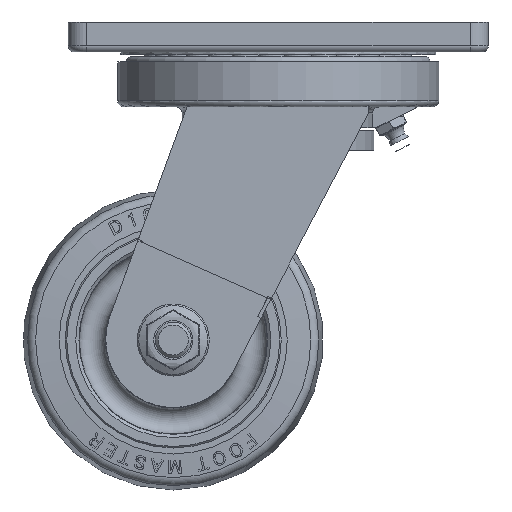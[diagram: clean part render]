
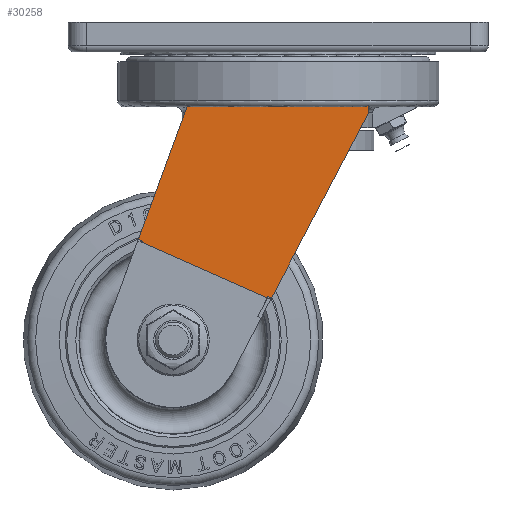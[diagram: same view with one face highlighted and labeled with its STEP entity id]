
A CAD part, front view. The second image highlights one B-rep face of the part: STEP entity #30258.
In plain terms, the highlighted planar face has unit normal (0, -1, 0).
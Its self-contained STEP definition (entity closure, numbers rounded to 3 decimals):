
#3704=PLANE('',#32322);
#5644=LINE('',#44533,#8195);
#5648=LINE('',#44541,#8199);
#5651=LINE('',#44547,#8202);
#5654=LINE('',#44553,#8205);
#5657=LINE('',#44559,#8208);
#5660=LINE('',#44565,#8211);
#5663=LINE('',#44571,#8214);
#5666=LINE('',#44577,#8217);
#5670=LINE('',#44589,#8221);
#5674=LINE('',#44601,#8225);
#5679=LINE('',#44619,#8230);
#5682=LINE('',#44625,#8233);
#5685=LINE('',#44631,#8236);
#5688=LINE('',#44636,#8239);
#8195=VECTOR('',#37207,10.);
#8199=VECTOR('',#37213,10.);
#8202=VECTOR('',#37218,10.);
#8205=VECTOR('',#37223,10.);
#8208=VECTOR('',#37228,10.);
#8211=VECTOR('',#37233,10.);
#8214=VECTOR('',#37238,10.);
#8217=VECTOR('',#37243,10.);
#8221=VECTOR('',#37255,10.);
#8225=VECTOR('',#37267,10.);
#8230=VECTOR('',#37286,10.);
#8233=VECTOR('',#37291,10.);
#8236=VECTOR('',#37296,10.);
#8239=VECTOR('',#37301,10.);
#9967=FACE_OUTER_BOUND('',#11577,.T.);
#11577=EDGE_LOOP('',(#24978,#24979,#24980,#24981,#24982,#24983,#24984,#24985,
#24986,#24987,#24988,#24989,#24990,#24991,#24992,#24993,#24994,#24995));
#12973=CIRCLE('',#32305,3.);
#12975=CIRCLE('',#32309,7.6);
#12977=CIRCLE('',#32313,3.);
#12979=CIRCLE('',#32316,22.5);
#14861=VERTEX_POINT('',#44531);
#14862=VERTEX_POINT('',#44532);
#14865=VERTEX_POINT('',#44540);
#14867=VERTEX_POINT('',#44546);
#14869=VERTEX_POINT('',#44552);
#14871=VERTEX_POINT('',#44558);
#14873=VERTEX_POINT('',#44564);
#14875=VERTEX_POINT('',#44570);
#14877=VERTEX_POINT('',#44576);
#14879=VERTEX_POINT('',#44582);
#14881=VERTEX_POINT('',#44588);
#14883=VERTEX_POINT('',#44594);
#14885=VERTEX_POINT('',#44600);
#14887=VERTEX_POINT('',#44606);
#14889=VERTEX_POINT('',#44612);
#14891=VERTEX_POINT('',#44618);
#14893=VERTEX_POINT('',#44624);
#14895=VERTEX_POINT('',#44630);
#18473=EDGE_CURVE('',#14861,#14862,#5644,.T.);
#18477=EDGE_CURVE('',#14862,#14865,#5648,.T.);
#18480=EDGE_CURVE('',#14865,#14867,#5651,.T.);
#18483=EDGE_CURVE('',#14867,#14869,#5654,.T.);
#18486=EDGE_CURVE('',#14869,#14871,#5657,.T.);
#18489=EDGE_CURVE('',#14871,#14873,#5660,.T.);
#18492=EDGE_CURVE('',#14873,#14875,#5663,.T.);
#18495=EDGE_CURVE('',#14875,#14877,#5666,.T.);
#18498=EDGE_CURVE('',#14877,#14879,#12973,.T.);
#18501=EDGE_CURVE('',#14879,#14881,#5670,.T.);
#18504=EDGE_CURVE('',#14881,#14883,#12975,.T.);
#18507=EDGE_CURVE('',#14883,#14885,#5674,.T.);
#18510=EDGE_CURVE('',#14885,#14887,#12977,.T.);
#18513=EDGE_CURVE('',#14887,#14889,#12979,.T.);
#18516=EDGE_CURVE('',#14889,#14891,#5679,.T.);
#18519=EDGE_CURVE('',#14891,#14893,#5682,.T.);
#18522=EDGE_CURVE('',#14893,#14895,#5685,.T.);
#18525=EDGE_CURVE('',#14895,#14861,#5688,.T.);
#24978=ORIENTED_EDGE('',*,*,#18473,.F.);
#24979=ORIENTED_EDGE('',*,*,#18525,.F.);
#24980=ORIENTED_EDGE('',*,*,#18522,.F.);
#24981=ORIENTED_EDGE('',*,*,#18519,.F.);
#24982=ORIENTED_EDGE('',*,*,#18516,.F.);
#24983=ORIENTED_EDGE('',*,*,#18513,.F.);
#24984=ORIENTED_EDGE('',*,*,#18510,.F.);
#24985=ORIENTED_EDGE('',*,*,#18507,.F.);
#24986=ORIENTED_EDGE('',*,*,#18504,.F.);
#24987=ORIENTED_EDGE('',*,*,#18501,.F.);
#24988=ORIENTED_EDGE('',*,*,#18498,.F.);
#24989=ORIENTED_EDGE('',*,*,#18495,.F.);
#24990=ORIENTED_EDGE('',*,*,#18492,.F.);
#24991=ORIENTED_EDGE('',*,*,#18489,.F.);
#24992=ORIENTED_EDGE('',*,*,#18486,.F.);
#24993=ORIENTED_EDGE('',*,*,#18483,.F.);
#24994=ORIENTED_EDGE('',*,*,#18480,.F.);
#24995=ORIENTED_EDGE('',*,*,#18477,.F.);
#30258=ADVANCED_FACE('',(#9967),#3704,.T.);
#32305=AXIS2_PLACEMENT_3D('',#44583,#37248,#37249);
#32309=AXIS2_PLACEMENT_3D('',#44595,#37260,#37261);
#32313=AXIS2_PLACEMENT_3D('',#44607,#37272,#37273);
#32316=AXIS2_PLACEMENT_3D('',#44613,#37279,#37280);
#32322=AXIS2_PLACEMENT_3D('',#44638,#37303,#37304);
#37207=DIRECTION('',(0.344,0.,0.939));
#37213=DIRECTION('',(1.,0.,0.));
#37218=DIRECTION('',(0.,0.,-1.));
#37223=DIRECTION('',(-0.464,0.,-0.886));
#37228=DIRECTION('',(-0.914,0.,0.405));
#37233=DIRECTION('',(-0.464,0.,-0.886));
#37238=DIRECTION('',(0.914,0.,-0.405));
#37243=DIRECTION('',(-0.464,0.,-0.886));
#37248=DIRECTION('center_axis',(0.,1.,0.));
#37249=DIRECTION('ref_axis',(0.886,0.,-0.464));
#37255=DIRECTION('',(-0.914,0.,0.405));
#37260=DIRECTION('center_axis',(0.,-1.,0.));
#37261=DIRECTION('ref_axis',(0.405,0.,0.914));
#37267=DIRECTION('',(0.914,0.,-0.405));
#37272=DIRECTION('center_axis',(0.,1.,0.));
#37273=DIRECTION('ref_axis',(0.405,0.,0.914));
#37279=DIRECTION('center_axis',(0.,1.,0.));
#37280=DIRECTION('ref_axis',(0.547,0.,-0.837));
#37286=DIRECTION('',(0.344,0.,0.939));
#37291=DIRECTION('',(0.914,0.,-0.405));
#37296=DIRECTION('',(0.344,0.,0.939));
#37301=DIRECTION('',(-0.914,0.,0.405));
#37303=DIRECTION('center_axis',(0.,-1.,0.));
#37304=DIRECTION('ref_axis',(0.405,0.,0.914));
#44531=CARTESIAN_POINT('',(-141.945,-118.936,-82.403));
#44532=CARTESIAN_POINT('',(-125.299,-118.936,-37.));
#44533=CARTESIAN_POINT('',(-141.945,-118.936,-82.403));
#44540=CARTESIAN_POINT('',(-65.299,-118.936,-37.));
#44541=CARTESIAN_POINT('',(-125.299,-118.936,-37.));
#44546=CARTESIAN_POINT('',(-65.299,-118.936,-40.434));
#44547=CARTESIAN_POINT('',(-65.299,-118.936,-37.));
#44552=CARTESIAN_POINT('',(-97.589,-118.936,-102.054));
#44553=CARTESIAN_POINT('',(-65.299,-118.936,-40.434));
#44558=CARTESIAN_POINT('',(-98.963,-118.936,-101.445));
#44559=CARTESIAN_POINT('',(-97.589,-118.936,-102.054));
#44564=CARTESIAN_POINT('',(-102.685,-118.936,-108.547));
#44565=CARTESIAN_POINT('',(-98.963,-118.936,-101.445));
#44570=CARTESIAN_POINT('',(-101.31,-118.936,-109.156));
#44571=CARTESIAN_POINT('',(-102.685,-118.936,-108.547));
#44576=CARTESIAN_POINT('',(-104.844,-118.936,-115.899));
#44577=CARTESIAN_POINT('',(-101.31,-118.936,-109.156));
#44582=CARTESIAN_POINT('',(-108.716,-118.936,-117.249));
#44583=CARTESIAN_POINT('Origin',(-107.501,-118.936,-114.507));
#44588=CARTESIAN_POINT('',(-127.22,-118.936,-109.051));
#44589=CARTESIAN_POINT('',(-108.716,-118.936,-117.249));
#44594=CARTESIAN_POINT('',(-133.377,-118.936,-122.949));
#44595=CARTESIAN_POINT('Origin',(-130.299,-118.936,-116.));
#44600=CARTESIAN_POINT('',(-118.413,-118.936,-129.578));
#44601=CARTESIAN_POINT('',(-133.377,-118.936,-122.949));
#44606=CARTESIAN_POINT('',(-117.986,-118.936,-134.832));
#44607=CARTESIAN_POINT('Origin',(-119.628,-118.936,-132.321));
#44612=CARTESIAN_POINT('',(-151.424,-118.936,-108.255));
#44613=CARTESIAN_POINT('Origin',(-130.299,-118.936,-116.));
#44618=CARTESIAN_POINT('',(-144.705,-118.936,-89.93));
#44619=CARTESIAN_POINT('',(-151.424,-118.936,-108.255));
#44624=CARTESIAN_POINT('',(-143.331,-118.936,-90.539));
#44625=CARTESIAN_POINT('',(-144.705,-118.936,-89.93));
#44630=CARTESIAN_POINT('',(-140.571,-118.936,-83.012));
#44631=CARTESIAN_POINT('',(-143.331,-118.936,-90.539));
#44636=CARTESIAN_POINT('',(-140.571,-118.936,-83.012));
#44638=CARTESIAN_POINT('Origin',(-115.025,-118.936,-85.976));
